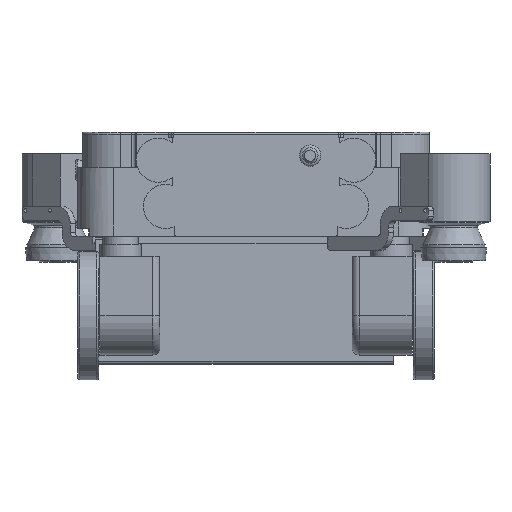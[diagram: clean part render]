
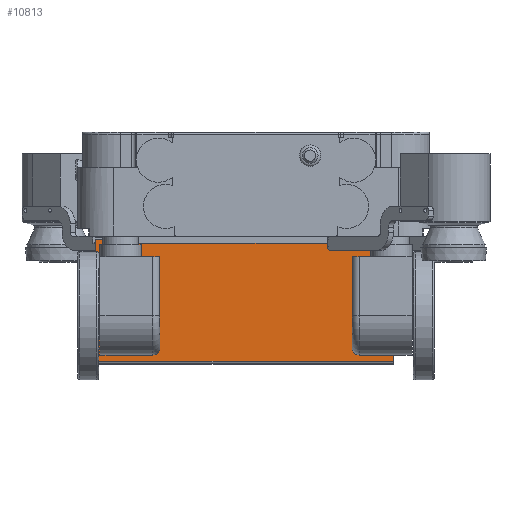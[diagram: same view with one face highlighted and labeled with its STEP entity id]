
A CAD part, front view. The second image highlights one B-rep face of the part: STEP entity #10813.
In plain terms, the highlighted planar face has unit normal (0, -1, 0).
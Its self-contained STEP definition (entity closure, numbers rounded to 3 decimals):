
#814=FACE_OUTER_BOUND('',#1482,.T.);
#1482=EDGE_LOOP('',(#8802,#8803,#8804,#8805,#8806,#8807,#8808,#8809,#8810));
#2979=LINE('',#17629,#4012);
#2986=LINE('',#17640,#4019);
#2989=LINE('',#17647,#4022);
#2994=LINE('',#17657,#4027);
#3000=LINE('',#17673,#4033);
#3003=LINE('',#17679,#4036);
#3015=LINE('',#17703,#4048);
#3022=LINE('',#17719,#4055);
#3023=LINE('',#17721,#4056);
#4012=VECTOR('',#13926,10.);
#4019=VECTOR('',#13935,10.);
#4022=VECTOR('',#13944,10.);
#4027=VECTOR('',#13953,10.);
#4033=VECTOR('',#13965,10.);
#4036=VECTOR('',#13970,10.);
#4048=VECTOR('',#13992,10.);
#4055=VECTOR('',#14011,10.);
#4056=VECTOR('',#14014,10.);
#5047=VERTEX_POINT('',#17627);
#5048=VERTEX_POINT('',#17628);
#5051=VERTEX_POINT('',#17638);
#5052=VERTEX_POINT('',#17646);
#5055=VERTEX_POINT('',#17656);
#5057=VERTEX_POINT('',#17662);
#5062=VERTEX_POINT('',#17671);
#5064=VERTEX_POINT('',#17677);
#5071=VERTEX_POINT('',#17702);
#6346=EDGE_CURVE('',#5047,#5048,#2979,.T.);
#6353=EDGE_CURVE('',#5048,#5051,#2986,.T.);
#6356=EDGE_CURVE('',#5052,#5047,#2989,.T.);
#6361=EDGE_CURVE('',#5052,#5055,#2994,.T.);
#6369=EDGE_CURVE('',#5057,#5062,#3000,.T.);
#6372=EDGE_CURVE('',#5064,#5051,#3003,.T.);
#6384=EDGE_CURVE('',#5055,#5071,#3015,.T.);
#6393=EDGE_CURVE('',#5062,#5071,#3022,.T.);
#6394=EDGE_CURVE('',#5057,#5064,#3023,.T.);
#8802=ORIENTED_EDGE('',*,*,#6353,.T.);
#8803=ORIENTED_EDGE('',*,*,#6372,.F.);
#8804=ORIENTED_EDGE('',*,*,#6394,.F.);
#8805=ORIENTED_EDGE('',*,*,#6369,.T.);
#8806=ORIENTED_EDGE('',*,*,#6393,.T.);
#8807=ORIENTED_EDGE('',*,*,#6384,.F.);
#8808=ORIENTED_EDGE('',*,*,#6361,.F.);
#8809=ORIENTED_EDGE('',*,*,#6356,.T.);
#8810=ORIENTED_EDGE('',*,*,#6346,.T.);
#10352=PLANE('',#11677);
#10813=ADVANCED_FACE('',(#814),#10352,.T.);
#11677=AXIS2_PLACEMENT_3D('',#17720,#14012,#14013);
#13926=DIRECTION('',(-1.,0.,0.));
#13935=DIRECTION('',(0.,0.,1.));
#13944=DIRECTION('',(0.,0.,-1.));
#13953=DIRECTION('',(1.,0.,0.));
#13965=DIRECTION('',(0.,0.,-1.));
#13970=DIRECTION('',(1.,0.,0.));
#13992=DIRECTION('',(0.,0.,-1.));
#14011=DIRECTION('',(1.,0.,0.));
#14012=DIRECTION('center_axis',(0.,-1.,0.));
#14013=DIRECTION('ref_axis',(0.,0.,
-1.));
#14014=DIRECTION('',(0.,0.,1.));
#17627=CARTESIAN_POINT('',(180.,-129.,191.8));
#17628=CARTESIAN_POINT('',(-180.,-129.,191.8));
#17629=CARTESIAN_POINT('',(-112.5,-129.,191.8));
#17638=CARTESIAN_POINT('',(-180.,-129.,197.3));
#17640=CARTESIAN_POINT('',(-180.,-129.,198.425));
#17646=CARTESIAN_POINT('',(180.,-129.,197.3));
#17647=CARTESIAN_POINT('',(180.,-129.,198.425));
#17656=CARTESIAN_POINT('',(193.,-129.,197.3));
#17657=CARTESIAN_POINT('',(-225.,-129.,197.3));
#17662=CARTESIAN_POINT('',(-225.,-129.,191.8));
#17671=CARTESIAN_POINT('',(-225.,-129.,26.199));
#17673=CARTESIAN_POINT('',(-225.,-129.,197.3));
#17677=CARTESIAN_POINT('',(-225.,-129.,197.3));
#17679=CARTESIAN_POINT('',(-225.,-129.,197.3));
#17702=CARTESIAN_POINT('',(193.,-129.,26.199));
#17703=CARTESIAN_POINT('',(193.,-129.,197.3));
#17719=CARTESIAN_POINT('',(-225.,-129.,26.199));
#17720=CARTESIAN_POINT('Origin',(-225.,-129.,197.3));
#17721=CARTESIAN_POINT('',(-225.,-129.,200.151));
